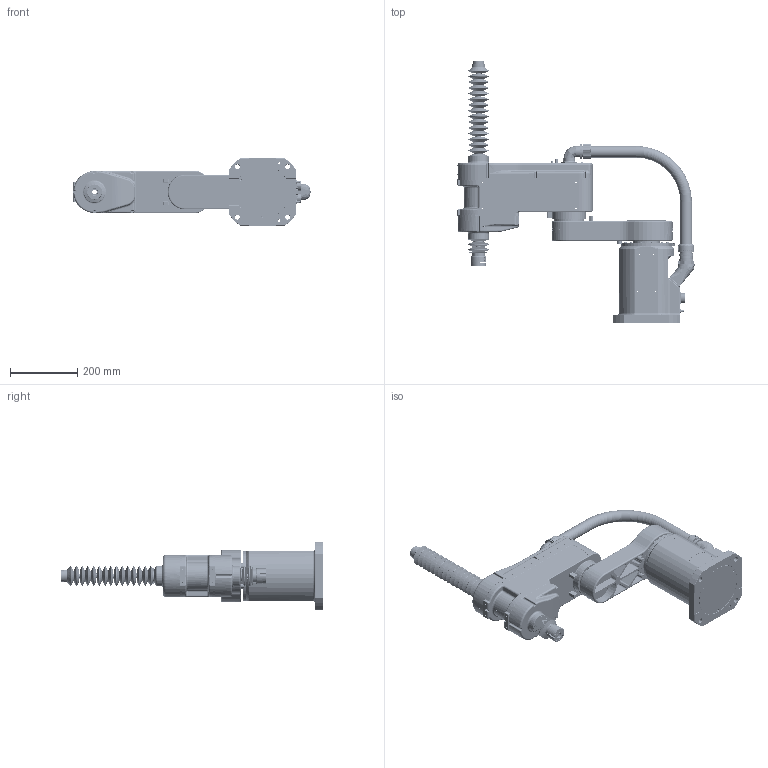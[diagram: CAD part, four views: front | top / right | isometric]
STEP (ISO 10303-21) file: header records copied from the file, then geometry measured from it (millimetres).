
FILE_DESCRIPTION (( 'STEP AP214' ), '1' );
FILE_NAME ('R4-0605F 3D耀倰.STEP', '2023-06-08T11:30:56', ( 'iCura' ), ( 'ICOS' ), 'SwSTEP 2.0', 'SolidWorks 2018', '' );
FILE_SCHEMA (( 'AUTOMOTIVE_DESIGN' ));
Length unit declared in the file: millimetre
Products named in the file (7): R4-0605F 3D耀倰; R4-0606-3-00; 疏恇奪 R4-0605; R4-0605-2-00; R4-0606-1-00; R4-0606F-4-00 ; 软管接头
Assembly tree (6 placements, depth 2):
  R4-0605F 3D耀倰
    R4-0606-1-00
    R4-0605-2-00
    R4-0606-3-00
    R4-0606F-4-00 
    软管接头
    疏恇奪 R4-0605
Bounding box: 705.51 x 781.5 x 200 mm (x, y, z)
Volume: 193185.8 mm3; surface area: 1352982.1 mm2
Topology: 2 solids, 215 shells, 2656 faces, 9084 edges, 6520 vertices
Faces by surface type: cylinder 1084, plane 902, bspline 263, cone 213, torus 169, sphere 25
Full cylindrical faces by diameter (mm): 1 x18, 2.5 x31, 3.1 x2, 3.2 x8, 3.3 x16, 3.4 x24, 3.5 x48, 4 x6, 4.134 x1, 4.2 x17, 4.5 x16, 5 x2, 5.5 x33, 5.891 x2, 6 x14, 6.5 x4, 7 x17, 7.5 x2, 8 x24, 10 x5, 13 x2, 14 x7, 14.9 x1, 18 x1, 20 x2, 26 x1, 28.2 x2, 29 x2, 30 x4, 32 x3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
Entity records: 151598 total; most frequent: CARTESIAN_POINT 50634, DIRECTION 14460, ORIENTED_EDGE 13090, EDGE_CURVE 8123, VERTEX_POINT 6246, AXIS2_PLACEMENT_3D 5528, EDGE_LOOP 3902, VECTOR 3404
